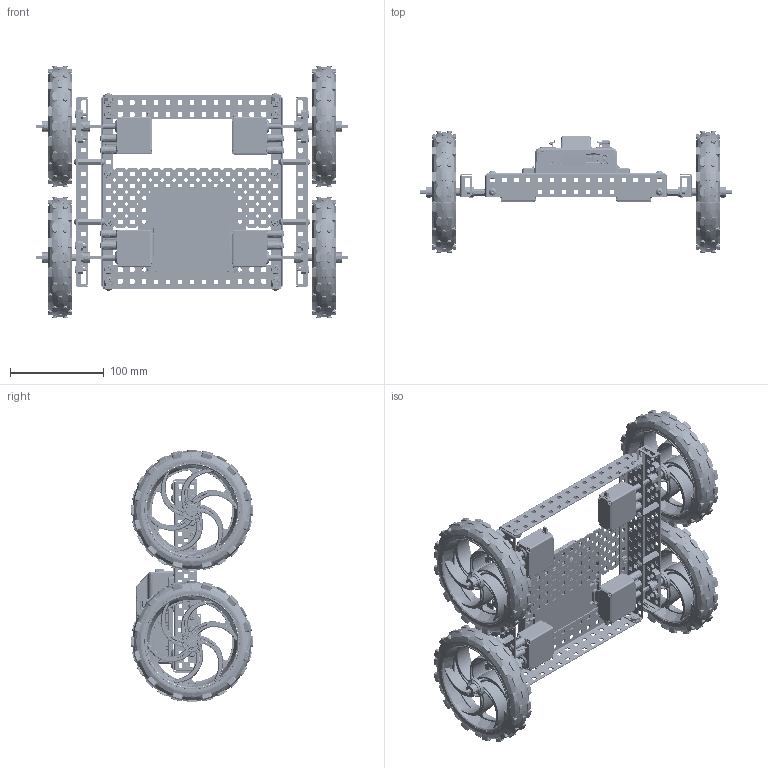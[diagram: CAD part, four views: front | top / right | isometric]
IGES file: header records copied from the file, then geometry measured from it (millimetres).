
Start section: SolidWorks IGES file using analytic representation for surfaces
Global section: file name: X:\VEX\VEX Kits\Vex Educational Starter Kit v1.0\ProtoBot\_exp\TUMBLER-Rev2-ASSY.IGS; native system: SolidWorks 2010; preprocessor: SolidWorks 2010; author: vex_intern; date: 101104.115605; units: inch
Bounding box: 332.51 x 129.46 x 269.12 mm (x, y, z)
Surface area: 718855.9 mm2 (no closed solid volume)
Topology: 0 solids, 0 shells, 23896 faces, 230892 edges, 230192 vertices
Faces by surface type: bspline 15173, revolution 8723
